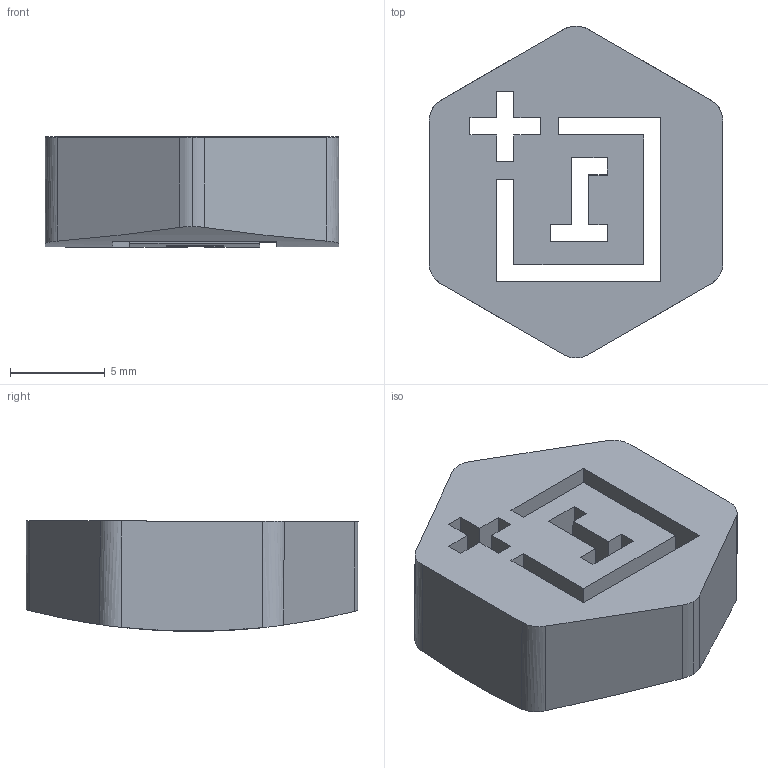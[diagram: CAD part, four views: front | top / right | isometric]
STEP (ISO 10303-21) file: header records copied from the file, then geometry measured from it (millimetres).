
FILE_DESCRIPTION (( 'STEP AP214' ), '1' );
FILE_NAME ('Logo Insert.STEP', '2015-03-13T18:52:17', ( '' ), ( '' ), 'SwSTEP 2.0', 'SolidWorks 2015', '' );
FILE_SCHEMA (( 'AUTOMOTIVE_DESIGN' ));
Length unit declared in the file: millimetre
Products named in the file (1): Logo Insert
Bounding box: 15.53 x 17.54 x 5.84 mm (x, y, z)
Volume: 958.3 mm3; surface area: 1109.1 mm2
Topology: 1 solids, 1 shells, 48 faces, 138 edges, 92 vertices
Faces by surface type: plane 35, bspline 12, cylinder 1
Entity records: 1935 total; most frequent: CARTESIAN_POINT 696, ORIENTED_EDGE 276, DIRECTION 204, EDGE_CURVE 138, LINE 94, VECTOR 94, VERTEX_POINT 92, AXIS2_PLACEMENT_3D 55
